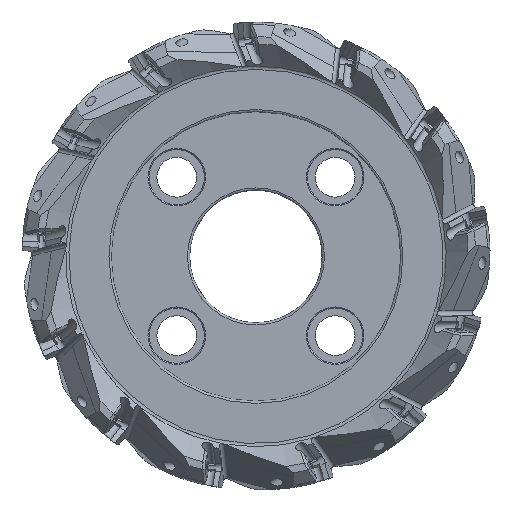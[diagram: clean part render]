
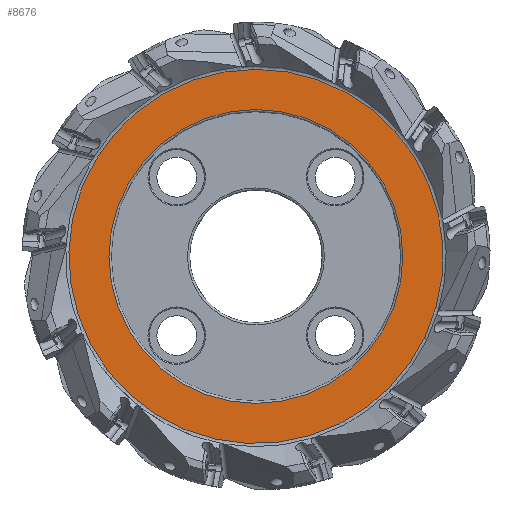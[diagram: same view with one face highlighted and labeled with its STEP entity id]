
A CAD part, front view. The second image highlights one B-rep face of the part: STEP entity #8676.
In plain terms, the highlighted planar face has unit normal (0, -1, 0).
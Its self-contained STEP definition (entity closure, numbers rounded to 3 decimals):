
#950=FACE_BOUND('',#2088,.T.);
#990=PLANE('',#9226);
#1610=FACE_OUTER_BOUND('',#2087,.T.);
#2087=EDGE_LOOP('',(#5923,#5924));
#2088=EDGE_LOOP('',(#5925,#5926));
#2598=CIRCLE('',#9168,84.677);
#2599=CIRCLE('',#9169,84.677);
#2620=CIRCLE('',#9227,66.5);
#2621=CIRCLE('',#9228,66.5);
#3343=VERTEX_POINT('',#12343);
#3344=VERTEX_POINT('',#12345);
#3481=VERTEX_POINT('',#13406);
#3482=VERTEX_POINT('',#13407);
#4314=EDGE_CURVE('',#3343,#3344,#2598,.T.);
#4315=EDGE_CURVE('',#3344,#3343,#2599,.T.);
#4466=EDGE_CURVE('',#3481,#3482,#2620,.T.);
#4467=EDGE_CURVE('',#3482,#3481,#2621,.T.);
#5923=ORIENTED_EDGE('',*,*,#4315,.F.);
#5924=ORIENTED_EDGE('',*,*,#4314,.F.);
#5925=ORIENTED_EDGE('',*,*,#4466,.F.);
#5926=ORIENTED_EDGE('',*,*,#4467,.F.);
#8676=ADVANCED_FACE('',(#1610,#950),#990,.T.);
#9168=AXIS2_PLACEMENT_3D('',#12346,#10048,#10049);
#9169=AXIS2_PLACEMENT_3D('',#12347,#10050,#10051);
#9226=AXIS2_PLACEMENT_3D('',#13405,#10164,#10165);
#9227=AXIS2_PLACEMENT_3D('',#13408,#10166,#10167);
#9228=AXIS2_PLACEMENT_3D('',#13409,#10168,#10169);
#10048=DIRECTION('center_axis',(0.,1.,0.));
#10049=DIRECTION('ref_axis',(-0.288,0.,0.958));
#10050=DIRECTION('center_axis',(0.,1.,0.));
#10051=DIRECTION('ref_axis',(-0.288,0.,0.958));
#10164=DIRECTION('center_axis',(0.,-1.,0.));
#10165=DIRECTION('ref_axis',(0.,0.,-1.));
#10166=DIRECTION('center_axis',(0.,-1.,0.));
#10167=DIRECTION('ref_axis',(-1.,0.,0.));
#10168=DIRECTION('center_axis',(0.,-1.,0.));
#10169=DIRECTION('ref_axis',(-1.,0.,0.));
#12343=CARTESIAN_POINT('',(0.,10.4,84.677));
#12345=CARTESIAN_POINT('',(24.36,10.4,-81.098));
#12346=CARTESIAN_POINT('Origin',(0.,10.4,0.));
#12347=CARTESIAN_POINT('Origin',(0.,10.4,0.));
#13405=CARTESIAN_POINT('Origin',(65.5,10.4,0.));
#13406=CARTESIAN_POINT('',(66.5,10.4,0.));
#13407=CARTESIAN_POINT('',(0.,10.4,66.5));
#13408=CARTESIAN_POINT('Origin',(0.,10.4,0.));
#13409=CARTESIAN_POINT('Origin',(0.,10.4,0.));
